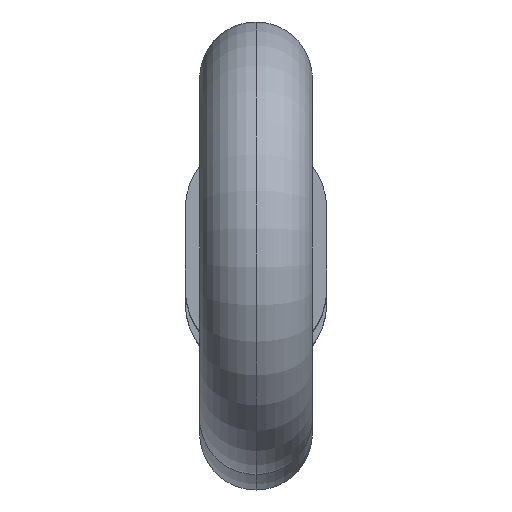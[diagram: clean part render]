
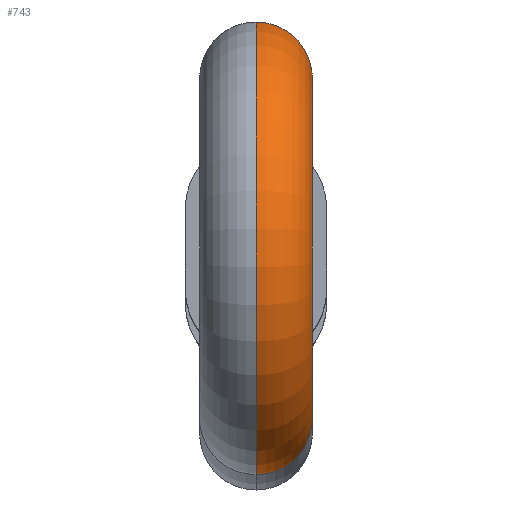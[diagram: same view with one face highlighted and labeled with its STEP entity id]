
A CAD part, top view. The second image highlights one B-rep face of the part: STEP entity #743.
In plain terms, the highlighted toroidal (fillet/blend) face has major radius 4.8 mm and minor radius 1.59 mm.
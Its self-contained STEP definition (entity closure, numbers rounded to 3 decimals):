
#65 = EDGE_CURVE ( 'NONE', #447, #610, #269, .T. ) ;
#143 = AXIS2_PLACEMENT_3D ( 'NONE', #545, #537, #229 ) ;
#172 = EDGE_CURVE ( 'NONE', #610, #578, #557, .T. ) ;
#184 = CARTESIAN_POINT ( 'NONE',  ( 0., -4.711, 123.8 ) ) ;
#220 = DIRECTION ( 'NONE',  ( 1., 0., 0. ) ) ;
#226 = CIRCLE ( 'NONE', #559, 3.21 ) ;
#229 = DIRECTION ( 'NONE',  ( 0., 0., -1. ) ) ;
#269 = CIRCLE ( 'NONE', #535, 1.59 ) ;
#278 = DIRECTION ( 'NONE',  ( 0., 0.667, 0.745 ) ) ;
#318 = DIRECTION ( 'NONE',  ( 0., 0., -1. ) ) ;
#331 = CARTESIAN_POINT ( 'NONE',  ( 0., -5.896, 122.74 ) ) ;
#350 = CARTESIAN_POINT ( 'NONE',  ( 0., 1.259, 124.86 ) ) ;
#353 = DIRECTION ( 'NONE',  ( 1., 0., 0. ) ) ;
#374 = TOROIDAL_SURFACE ( 'NONE', #877, 4.8, 1.59 ) ;
#420 = AXIS2_PLACEMENT_3D ( 'NONE', #184, #583, #353 ) ;
#447 = VERTEX_POINT ( 'NONE', #350 ) ;
#478 = DIRECTION ( 'NONE',  ( 1., 0., 0. ) ) ;
#522 = DIRECTION ( 'NONE',  ( 1., 0., 0. ) ) ;
#535 = AXIS2_PLACEMENT_3D ( 'NONE', #836, #278, #522 ) ;
#537 = DIRECTION ( 'NONE',  ( 1., 0., 0. ) ) ;
#545 = CARTESIAN_POINT ( 'NONE',  ( 0., -1.133, 127. ) ) ;
#557 = CIRCLE ( 'NONE', #143, 6.39 ) ;
#559 = AXIS2_PLACEMENT_3D ( 'NONE', #617, #478, #318 ) ;
#578 = VERTEX_POINT ( 'NONE', #331 ) ;
#583 = DIRECTION ( 'NONE',  ( 0., 0.667, -0.745 ) ) ;
#610 = VERTEX_POINT ( 'NONE', #986 ) ;
#617 = CARTESIAN_POINT ( 'NONE',  ( 0., -1.133, 127. ) ) ;
#633 = EDGE_CURVE ( 'NONE', #892, #578, #876, .T. ) ;
#670 = ORIENTED_EDGE ( 'NONE', *, *, #65, .T. ) ;
#693 = CARTESIAN_POINT ( 'NONE',  ( 0., -1.133, 127. ) ) ;
#718 = CARTESIAN_POINT ( 'NONE',  ( 0., -3.526, 124.86 ) ) ;
#743 = ADVANCED_FACE ( 'NONE', ( #1014 ), #374, .T. ) ;
#782 = ORIENTED_EDGE ( 'NONE', *, *, #633, .F. ) ;
#836 = CARTESIAN_POINT ( 'NONE',  ( 0., 2.445, 123.8 ) ) ;
#876 = CIRCLE ( 'NONE', #420, 1.59 ) ;
#877 = AXIS2_PLACEMENT_3D ( 'NONE', #693, #220, #933 ) ;
#883 = EDGE_CURVE ( 'NONE', #447, #892, #226, .T. ) ;
#892 = VERTEX_POINT ( 'NONE', #718 ) ;
#904 = ORIENTED_EDGE ( 'NONE', *, *, #172, .T. ) ;
#933 = DIRECTION ( 'NONE',  ( 0., 0., -1. ) ) ;
#986 = CARTESIAN_POINT ( 'NONE',  ( 0., 3.63, 122.74 ) ) ;
#989 = ORIENTED_EDGE ( 'NONE', *, *, #883, .F. ) ;
#1011 = EDGE_LOOP ( 'NONE', ( #670, #904, #782, #989 ) ) ;
#1014 = FACE_OUTER_BOUND ( 'NONE', #1011, .T. ) ;
